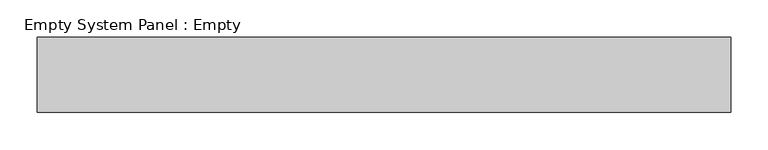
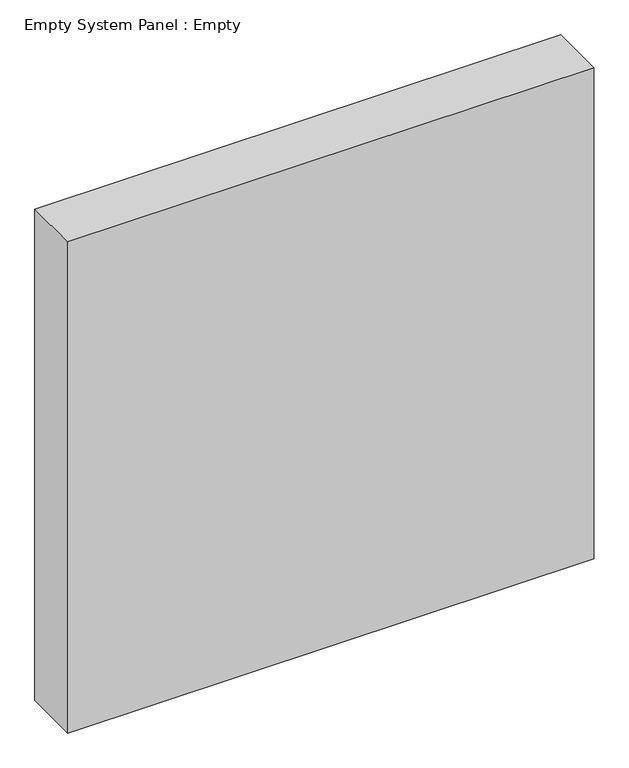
"""IFC4 building model written with IfcOpenShell, lengths in millimetres: plate geometry, Empty System Panel : Empty."""

from ifc_helpers import new_model, si_unit, origin, origin_with_axes, place, context, project, spatial, polyline, outline, extrude, source, transform, mapped, element, save


def empty_system_panel_empty_1164fc18(model_context):
    return source(origin(), model_context, "Body", "SweptSolid", [
        extrude(outline(polyline([(462.5, -50.0), (-462.5, -50.0), (-462.5, 50.0), (462.5, 50.0), (462.5, -50.0)])), origin_with_axes(), (0.0, 0.0, 1.0), 912.5),
    ])


if __name__ == "__main__":
    model = new_model("IFC4")
    model_context = context("Model", 3, world=origin())
    ifc_project = project(units=[si_unit("LENGTHUNIT", "METRE", prefix="MILLI")], contexts=[model_context])
    site = spatial("IfcSite", under=ifc_project)
    building = spatial("IfcBuilding", under=site)
    placement = place(None, origin())
    empty_system_panel_empty_shape = empty_system_panel_empty_1164fc18(model_context)
    element("IfcPlate", 1, ObjectType="Empty System Panel : Empty", at=placement, inside=building, context=model_context, shape_type="MappedRepresentation", body=[
        mapped(empty_system_panel_empty_shape, transform((0.0, 0.0, 0.0), x_axis=(1.0, 0.0, 0.0), y_axis=(0.0, 1.0, 0.0), z_axis=(0.0, 0.0, 1.0))),
    ])
    save(model, "model.ifc")
